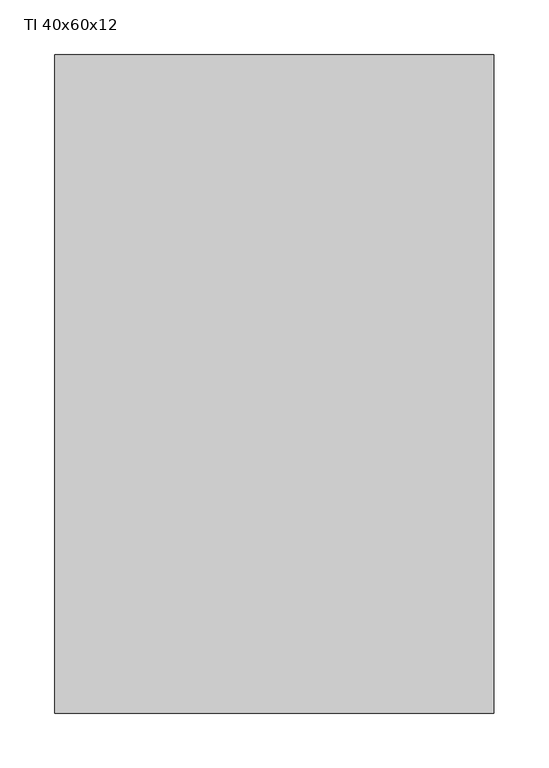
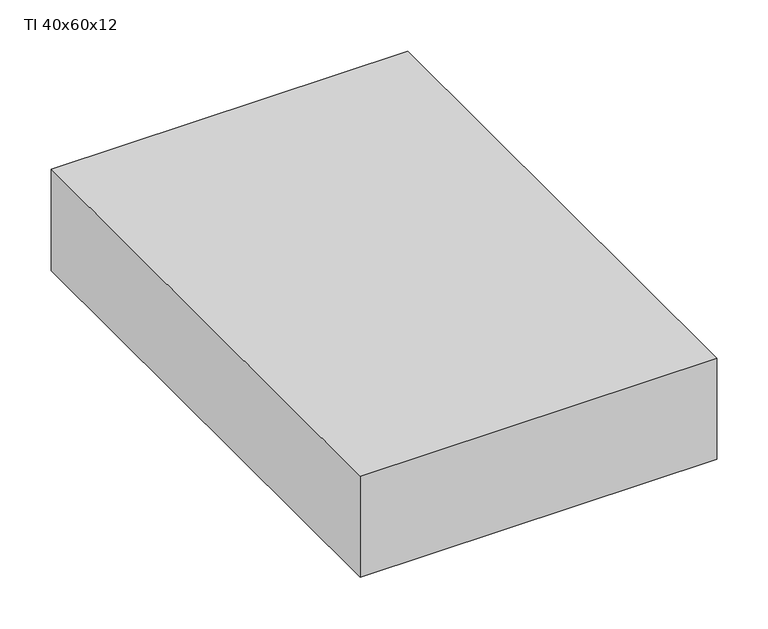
"""IFC4 building model written with IfcOpenShell, lengths in millimetres: proxy geometry, TABLERO ELECTRICO DE SUPERFICIE : TI 40x60x12."""

from ifc_helpers import new_model, si_unit, origin, origin_with_axes, place, context, project, spatial, polyline, outline, extrude, source, transform, mapped, element, save


def ti_40x60x12_73ea1888(model_context):
    return source(origin(), model_context, "Body", "SweptSolid", [
        extrude(outline(polyline([(200.0, 0.0), (200.0, -600.0), (-200.0, -600.0), (-200.0, 0.0), (200.0, 0.0)])), origin_with_axes(), (0.0, 0.0, 1.0), 120.0),
    ])


if __name__ == "__main__":
    model = new_model("IFC4")
    model_context = context("Model", 3, world=origin())
    ifc_project = project(units=[si_unit("LENGTHUNIT", "METRE", prefix="MILLI")], contexts=[model_context])
    site = spatial("IfcSite", under=ifc_project)
    building = spatial("IfcBuilding", under=site)
    placement = place(None, origin())
    ti_40x60x12_shape = ti_40x60x12_73ea1888(model_context)
    element("IfcBuildingElementProxy", 1, Name="TABLERO ELECTRICO DE SUPERFICIE : TI 40x60x12", ObjectType="TABLERO ELECTRICO DE SUPERFICIE : TI 40x60x12", at=placement, inside=building, context=model_context, shape_type="MappedRepresentation", body=[
        mapped(ti_40x60x12_shape, transform((0.0, 0.0, 0.0), x_axis=(1.0, 0.0, 0.0), y_axis=(0.0, 1.0, 0.0), z_axis=(0.0, 0.0, 1.0))),
    ])
    save(model, "model.ifc")
